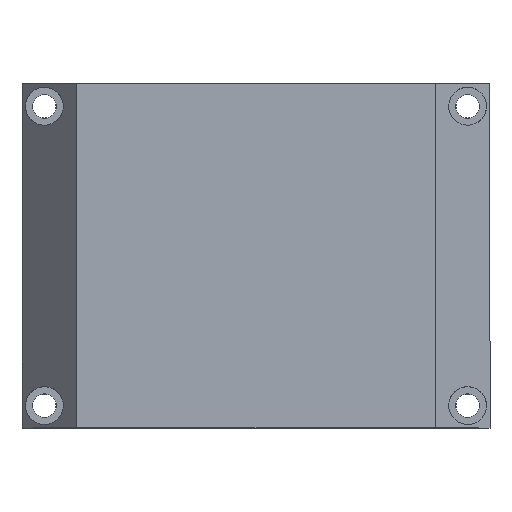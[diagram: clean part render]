
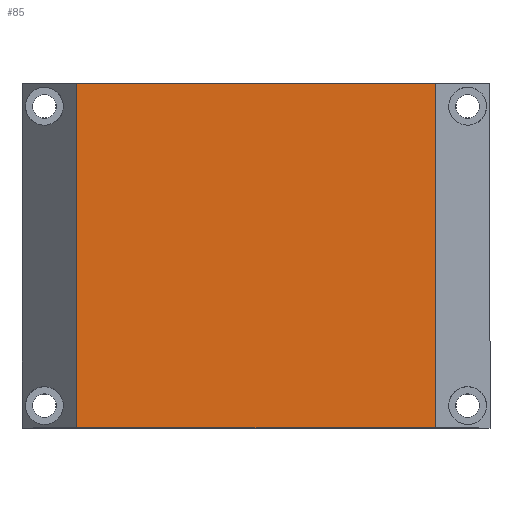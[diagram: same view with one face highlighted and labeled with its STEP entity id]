
A CAD part, top view. The second image highlights one B-rep face of the part: STEP entity #85.
In plain terms, the highlighted planar face has unit normal (0, 0, 1).
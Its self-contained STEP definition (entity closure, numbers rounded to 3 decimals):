
#3 = EDGE_CURVE ( 'NONE', #232, #766, #771, .T. ) ;
#45 = CARTESIAN_POINT ( 'NONE',  ( -52.057, -50., 25. ) ) ;
#85 = ADVANCED_FACE ( 'NONE', ( #1624 ), #409, .T. ) ;
#127 = LINE ( 'NONE', #292, #919 ) ;
#150 = DIRECTION ( 'NONE',  ( -1., 0., 0. ) ) ;
#208 = CARTESIAN_POINT ( 'NONE',  ( 52.057, -50., 25. ) ) ;
#232 = VERTEX_POINT ( 'NONE', #1385 ) ;
#292 = CARTESIAN_POINT ( 'NONE',  ( 52.057, 50., 25. ) ) ;
#409 = PLANE ( 'NONE',  #1633 ) ;
#589 = EDGE_CURVE ( 'NONE', #1744, #232, #1418, .T. ) ;
#597 = EDGE_LOOP ( 'NONE', ( #1766, #878, #1022, #1019 ) ) ;
#732 = DIRECTION ( 'NONE',  ( 0., 1., 0. ) ) ;
#740 = CARTESIAN_POINT ( 'NONE',  ( -52.057, 50., 25. ) ) ;
#751 = VECTOR ( 'NONE', #1389, 1000. ) ;
#761 = DIRECTION ( 'NONE',  ( 0., -1., 0. ) ) ;
#766 = VERTEX_POINT ( 'NONE', #208 ) ;
#771 = LINE ( 'NONE', #1484, #751 ) ;
#878 = ORIENTED_EDGE ( 'NONE', *, *, #918, .T. ) ;
#918 = EDGE_CURVE ( 'NONE', #766, #1270, #127, .T. ) ;
#919 = VECTOR ( 'NONE', #732, 1000. ) ;
#1019 = ORIENTED_EDGE ( 'NONE', *, *, #589, .T. ) ;
#1022 = ORIENTED_EDGE ( 'NONE', *, *, #1340, .T. ) ;
#1242 = LINE ( 'NONE', #1652, #1268 ) ;
#1268 = VECTOR ( 'NONE', #150, 1000. ) ;
#1270 = VERTEX_POINT ( 'NONE', #1579 ) ;
#1312 = CARTESIAN_POINT ( 'NONE',  ( 0., 0., 25. ) ) ;
#1340 = EDGE_CURVE ( 'NONE', #1270, #1744, #1242, .T. ) ;
#1385 = CARTESIAN_POINT ( 'NONE',  ( -52.057, -50., 25. ) ) ;
#1389 = DIRECTION ( 'NONE',  ( 1., 0., 0. ) ) ;
#1418 = LINE ( 'NONE', #45, #1849 ) ;
#1484 = CARTESIAN_POINT ( 'NONE',  ( -68., -50., 25. ) ) ;
#1494 = DIRECTION ( 'NONE',  ( 0., 0., 1. ) ) ;
#1579 = CARTESIAN_POINT ( 'NONE',  ( 52.057, 50., 25. ) ) ;
#1624 = FACE_OUTER_BOUND ( 'NONE', #597, .T. ) ;
#1633 = AXIS2_PLACEMENT_3D ( 'NONE', #1312, #1494, #1893 ) ;
#1652 = CARTESIAN_POINT ( 'NONE',  ( -68., 50., 25. ) ) ;
#1744 = VERTEX_POINT ( 'NONE', #740 ) ;
#1766 = ORIENTED_EDGE ( 'NONE', *, *, #3, .T. ) ;
#1849 = VECTOR ( 'NONE', #761, 1000. ) ;
#1893 = DIRECTION ( 'NONE',  ( 1., 0., 0. ) ) ;
